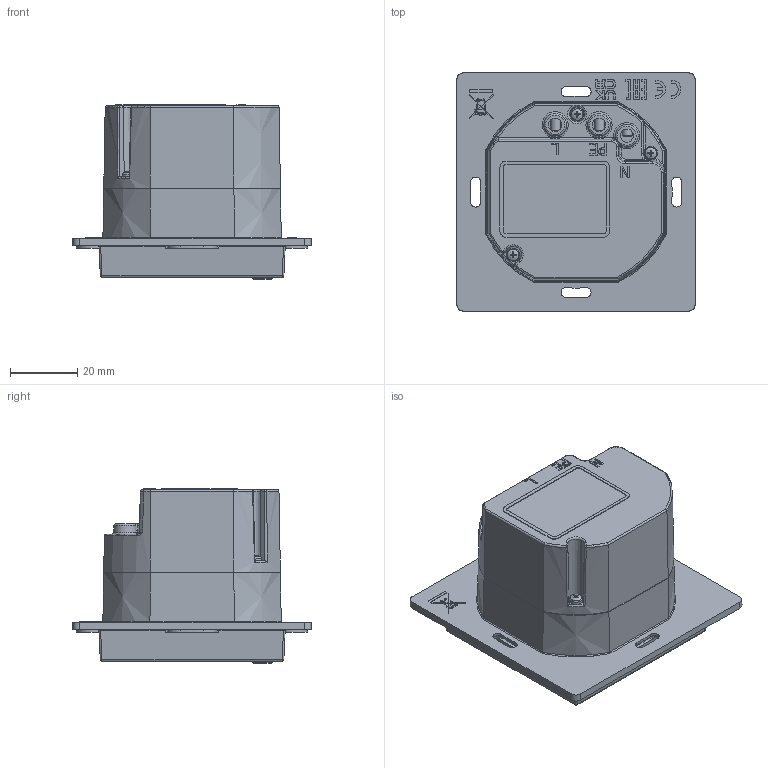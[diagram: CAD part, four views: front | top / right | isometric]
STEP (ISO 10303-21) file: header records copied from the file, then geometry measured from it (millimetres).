
FILE_DESCRIPTION(/* description */ ('https://chmura.techlocal.pl/index.php/s/GGd6jnZWDXbexKm'),/* implementation_level */ '2;1');
FILE_NAME(/* name */ 'FF-230.step',/* time_stamp */ '2026-01-24T17:43:08+01:00',/* author */ (''),/* organization */ (''),/* preprocessor_version */ 'ST-DEVELOPER v20.1',/* originating_system */ 'Autodesk Translation Framework v14.24.0.0',/* authorisation */ '');
FILE_SCHEMA (('AUTOMOTIVE_DESIGN { 1 0 10303 214 3 1 1 }'));
Products named in the file (16): OP-1042 WER.1; S_028.00.000.00024; OP-1042-A; OP-1042-B; OP-1042-C; OP-1042-D; OP-1042-E; OP-1042-F; OP-1042-G; S_045.00.000.00084; S_023.02.000.00031; S_023.02.000.00032; S_023.03.000.00010	; S_045.00.000.00075; S_023.05.000.00006; S_023.05.000.00004/...005
Assembly tree (25 placements, depth 2):
  OP-1042 WER.1
    S_045.00.000.00084  x2
    S_028.00.000.00024
    OP-1042-A
    OP-1042-B
    OP-1042-C
    OP-1042-D
    OP-1042-E
    OP-1042-F
    OP-1042-G
    S_023.02.000.00031
    S_023.02.000.00032
    S_023.03.000.00010	
    #114113
    S_045.00.000.00075
    S_023.05.000.00006  x3
    #114117  x5
    S_023.05.000.00004/...005  x2
Bounding box: 70.92 x 70.92 x 51.7 mm (x, y, z)
Volume: 40782.2 mm3; surface area: 52667.7 mm2
Topology: 25 solids, 25 shells, 3281 faces, 8664 edges, 5548 vertices
Faces by surface type: plane 1471, cylinder 691, bspline 679, cone 238, torus 125, sphere 77
Full cylindrical faces by diameter (mm): 0.528 x1, 1.623 x1, 1.7 x2, 1.783 x1, 1.8 x3, 1.9 x3, 1.933 x1, 2 x1, 2.17 x5, 2.2 x1, 2.3 x1, 2.4 x1, 2.5 x2, 2.729 x5, 2.927 x5, 3 x4, 3.8 x2, 4.4 x1, 5 x1
Entity records: 113995 total; most frequent: CARTESIAN_POINT 45119, ORIENTED_EDGE 15218, DIRECTION 12676, EDGE_CURVE 7609, VERTEX_POINT 4877, LINE 4268, VECTOR 4268, AXIS2_PLACEMENT_3D 4204
